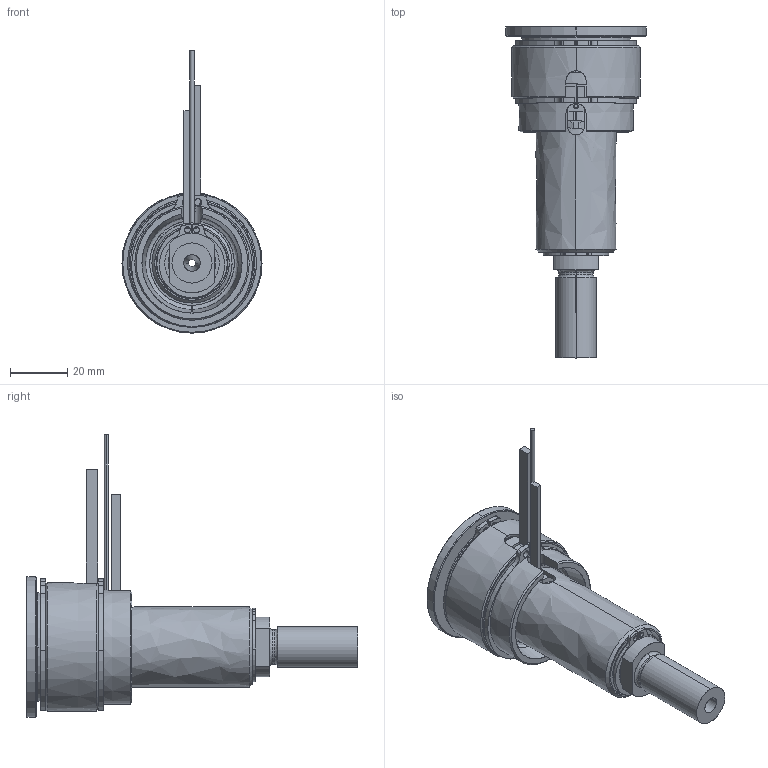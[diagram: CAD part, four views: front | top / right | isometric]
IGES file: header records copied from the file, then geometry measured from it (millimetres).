
Start section: SolidWorks IGES file using analytic representation for surfaces
Global section: file name: C:\Documents and Settings\ws-20\Desktop\TEM\UGBE4501-S-A-P-3 [Ød-2.5 P-25 ØC-10].IGS; native system: SolidWorks 2012; preprocessor: SolidWorks 2012; author: ws-20; date: 120412.154317; units: millimetre
Bounding box: 49 x 116 x 98.65 mm (x, y, z)
Surface area: 41086.2 mm2 (no closed solid volume)
Topology: 0 solids, 0 shells, 168 faces, 3161 edges, 3161 vertices
Faces by surface type: revolution 107, bspline 61
